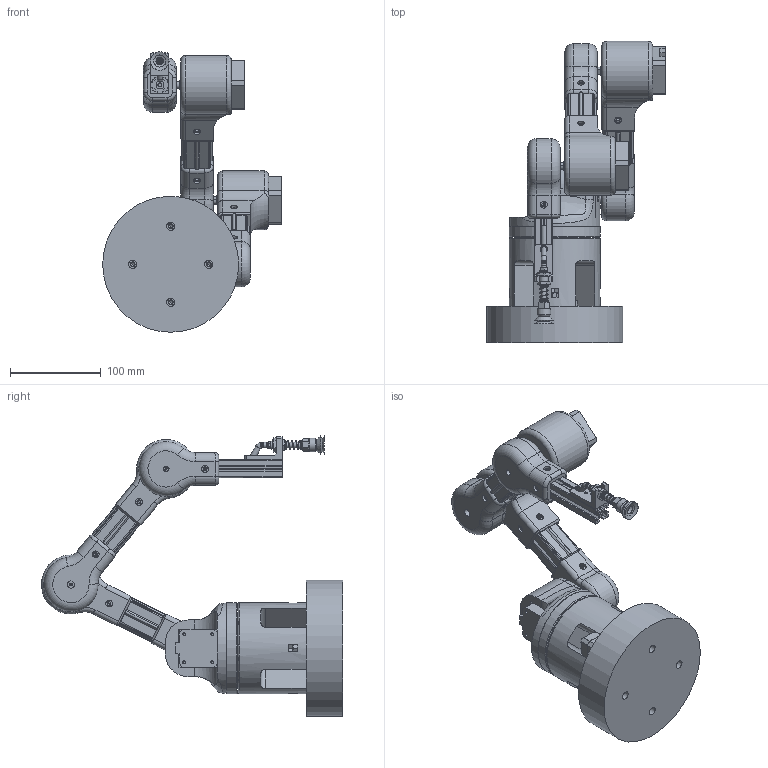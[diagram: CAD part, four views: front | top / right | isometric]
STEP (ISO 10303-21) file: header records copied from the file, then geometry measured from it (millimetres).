
FILE_DESCRIPTION(/* description */ (''),/* implementation_level */ '2;1');
FILE_NAME(/* name */ 'Assieme_robot_cicloidale_singolo.stp',/* time_stamp */ '2026-03-24T12:56:02+01:00',/* author */ ('Ryzen5700u'),/* organization */ (''),/* preprocessor_version */ 'ST-DEVELOPER v20',/* originating_system */ 'Autodesk Inventor 2025',/* authorisation */ '');
FILE_SCHEMA (('AUTOMOTIVE_DESIGN { 1 0 10303 214 3 1 1 }'));
Length unit declared in the file: millimetre
Products named in the file (29): Assieme_robot; riduttore_cicloidale_nema17-47mm; NEMA 17; braccio1; base_ferro; ISO 104 - 1 11 50 x 70 x 14; blocco_base; disco_base1; disco_base2; blocco_nema; riduttore_cicloidale_nema17-40mm; NEMA 17-40mm; riduttore ciccloidale TS42 15-1; blocco_albero_nema; R.03.Suction Grab; R.03.01.Cup; R.03.02.Tube; R.03.03.Spring; R.03.04.Fitting; DIN 3771 - 5 x 1,8 - N - NBR 70; R.03.05.Interface; R.03.06.Nut; blocco_ventosa_profilato; tslot-20x20-100mm; tubo_silicone; AS 1420 - 1973 - M3 x 16; Assieme_frame_tslot; frame_tslot; AS 1112 - M5  Tipo 5
Assembly tree (46 placements, depth 3):
  Assieme_robot
    riduttore_cicloidale_nema17-47mm
      NEMA 17
      riduttore ciccloidale TS42 15-1
    braccio1
    tslot-20x20-100mm  x2
    riduttore_cicloidale_nema17-40mm  x3
      NEMA 17-40mm
      riduttore ciccloidale TS42 15-1
    base_ferro
    ISO 104 - 1 11 50 x 70 x 14
    blocco_base
    disco_base1
    disco_base2
    AS 1112 - M5  Tipo 5  x8
    blocco_nema  x2
    blocco_albero_nema  x2
    R.03.Suction Grab
      R.03.01.Cup
      R.03.02.Tube
      R.03.03.Spring
      R.03.04.Fitting
      DIN 3771 - 5 x 1,8 - N - NBR 70
      R.03.05.Interface
      R.03.06.Nut
      blocco_ventosa_profilato
      tslot-20x20-100mm
      tubo_silicone
    AS 1420 - 1973 - M3 x 16
    Assieme_frame_tslot  x2
      frame_tslot
Bounding box: 197 x 332.09 x 309.4 mm (x, y, z)
Volume: 2399245 mm3; surface area: 510388.7 mm2
Topology: 64 solids, 64 shells, 1685 faces, 4199 edges, 2700 vertices
Faces by surface type: plane 907, cylinder 423, cone 171, torus 114, sphere 48, bspline 22
Full cylindrical faces by diameter (mm): 2 x1, 2.459 x20, 2.5 x1, 3 x2, 3.2 x18, 3.242 x24, 3.4 x3, 4.134 x8, 4.2 x3, 4.3 x18, 4.5 x8, 5 x12, 5.25 x1, 5.3 x4, 5.5 x9, 6 x19, 6.2 x3, 6.5 x8, 7 x4, 7.5 x18, 8 x2, 9 x4, 10 x7, 15 x1, 20 x1, 22 x12, 22.2 x1, 22.5 x2, 49 x1, 50 x2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
Entity records: 27940 total; most frequent: CARTESIAN_POINT 7144, DIRECTION 4334, ORIENTED_EDGE 3902, EDGE_CURVE 1951, AXIS2_PLACEMENT_3D 1688, VERTEX_POINT 1330, EDGE_LOOP 999, LINE 958
